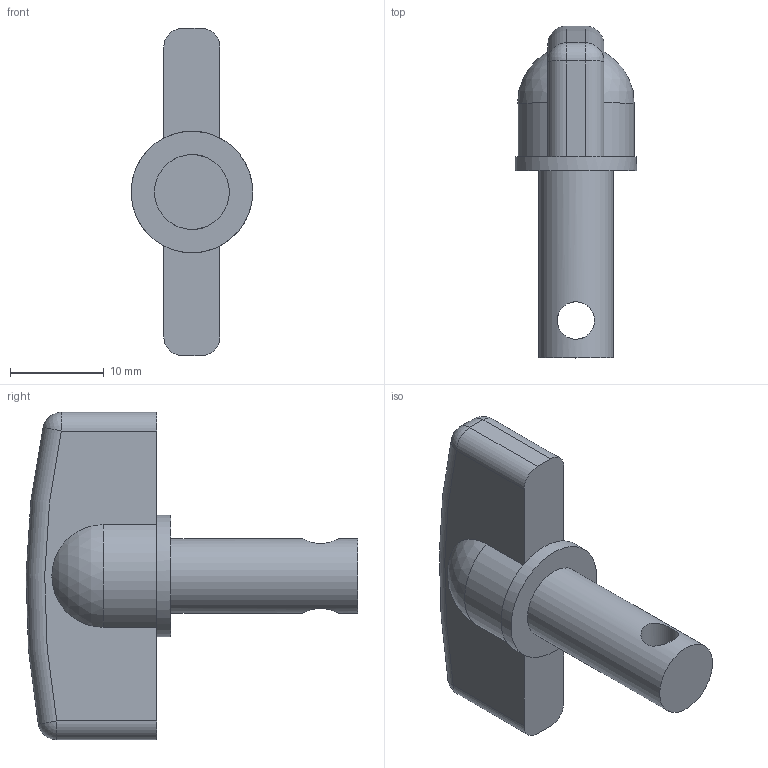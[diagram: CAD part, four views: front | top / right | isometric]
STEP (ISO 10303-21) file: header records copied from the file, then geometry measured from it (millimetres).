
FILE_DESCRIPTION(/* description */ (''),/* implementation_level */ '2;1');
FILE_NAME(/* name */ 'C:\Users\user\Documents\Inventor\Home Ventilator CPAP\Toggle.stp',/* time_stamp */ '2020-03-29T22:41:42+02:00',/* author */ ('user'),/* organization */ (''),/* preprocessor_version */ 'ST-DEVELOPER v16.5',/* originating_system */ 'Autodesk Inventor 2017',/* authorisation */ '');
FILE_SCHEMA (('AUTOMOTIVE_DESIGN { 1 0 10303 214 3 1 1 }'));
Length unit declared in the file: millimetre
Products named in the file (1): Toggle
Bounding box: 12.98 x 35.49 x 35 mm (x, y, z)
Volume: 4271.6 mm3; surface area: 2145.3 mm2
Topology: 1 solids, 1 shells, 30 faces, 65 edges, 38 vertices
Faces by surface type: cylinder 12, plane 10, sphere 6, torus 2
Full cylindrical faces by diameter (mm): 4 x1, 8 x1, 13 x1
Entity records: 936 total; most frequent: CARTESIAN_POINT 195, DIRECTION 154, ORIENTED_EDGE 122, AXIS2_PLACEMENT_3D 64, EDGE_CURVE 61, VERTEX_POINT 37, EDGE_LOOP 36, CIRCLE 33
